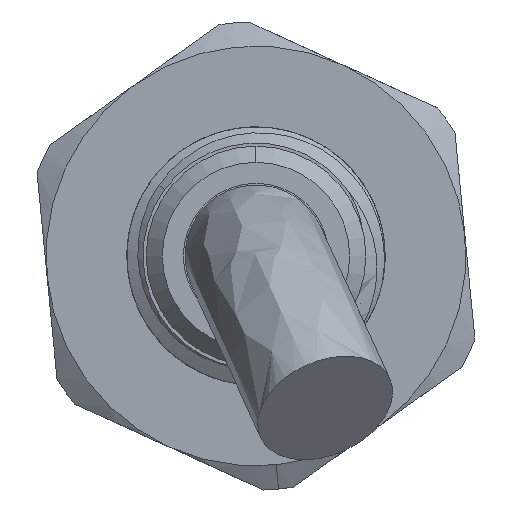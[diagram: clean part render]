
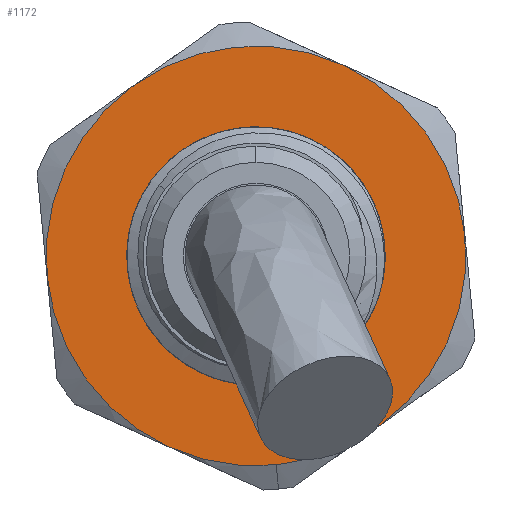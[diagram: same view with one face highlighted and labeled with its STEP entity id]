
A CAD part, front view. The second image highlights one B-rep face of the part: STEP entity #1172.
In plain terms, the highlighted planar face has unit normal (0, -1, 0).
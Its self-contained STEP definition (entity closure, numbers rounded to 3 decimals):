
#227 = CARTESIAN_POINT ( 'NONE',  ( 7.523, 14.443, 0.675 ) ) ;
#368 = CIRCLE ( 'NONE', #440, 6.5 ) ;
#440 = AXIS2_PLACEMENT_3D ( 'NONE', #5103, #8239, #9317 ) ;
#448 = CARTESIAN_POINT ( 'NONE',  ( 3.746, 14.443, 5.965 ) ) ;
#524 = VERTEX_POINT ( 'NONE', #13403 ) ;
#525 = CIRCLE ( 'NONE', #2673, 6.5 ) ;
#1025 = CARTESIAN_POINT ( 'NONE',  ( 3.746, 14.443, 5.965 ) ) ;
#1127 = AXIS2_PLACEMENT_3D ( 'NONE', #1025, #2000, #8404 ) ;
#1172 = ADVANCED_FACE ( 'NONE', ( #11360, #6695 ), #6166, .F. ) ;
#1370 = CARTESIAN_POINT ( 'NONE',  ( 6.44, 14.443, 11.881 ) ) ;
#1513 = AXIS2_PLACEMENT_3D ( 'NONE', #9698, #10881, #3370 ) ;
#1533 = ORIENTED_EDGE ( 'NONE', *, *, #4913, .T. ) ;
#2000 = DIRECTION ( 'NONE',  ( 0., 1., 0. ) ) ;
#2132 = DIRECTION ( 'NONE',  ( -0.096, 0., 0.995 ) ) ;
#2228 = CARTESIAN_POINT ( 'NONE',  ( 3.746, 14.443, 5.965 ) ) ;
#2498 = EDGE_LOOP ( 'NONE', ( #8562, #1533 ) ) ;
#2642 = ORIENTED_EDGE ( 'NONE', *, *, #9723, .F. ) ;
#2673 = AXIS2_PLACEMENT_3D ( 'NONE', #2228, #3084, #2132 ) ;
#3084 = DIRECTION ( 'NONE',  ( 0., 1., 0. ) ) ;
#3216 = ORIENTED_EDGE ( 'NONE', *, *, #6099, .F. ) ;
#3261 = AXIS2_PLACEMENT_3D ( 'NONE', #7527, #7445, #9526 ) ;
#3360 = CARTESIAN_POINT ( 'NONE',  ( -2.724, 14.443, 5.34 ) ) ;
#3370 = DIRECTION ( 'NONE',  ( -0.096, 0., 0.995 ) ) ;
#3635 = DIRECTION ( 'NONE',  ( 0., -1., 0. ) ) ;
#3788 = VERTEX_POINT ( 'NONE', #7961 ) ;
#4014 = CIRCLE ( 'NONE', #13493, 6.5 ) ;
#4190 = VERTEX_POINT ( 'NONE', #8972 ) ;
#4436 = AXIS2_PLACEMENT_3D ( 'NONE', #7229, #5156, #8195 ) ;
#4597 = ORIENTED_EDGE ( 'NONE', *, *, #9516, .F. ) ;
#4656 = DIRECTION ( 'NONE',  ( 0., 1., 0. ) ) ;
#4913 = EDGE_CURVE ( 'NONE', #7078, #4190, #10519, .T. ) ;
#5062 = CARTESIAN_POINT ( 'NONE',  ( 4.083, 14.443, 2.482 ) ) ;
#5103 = CARTESIAN_POINT ( 'NONE',  ( 3.746, 14.443, 5.965 ) ) ;
#5156 = DIRECTION ( 'NONE',  ( 0., 1., 0. ) ) ;
#5167 = AXIS2_PLACEMENT_3D ( 'NONE', #448, #3635, #9839 ) ;
#5706 = CIRCLE ( 'NONE', #3261, 6.5 ) ;
#5737 = AXIS2_PLACEMENT_3D ( 'NONE', #8849, #4656, #13133 ) ;
#5795 = ORIENTED_EDGE ( 'NONE', *, *, #5868, .F. ) ;
#5868 = EDGE_CURVE ( 'NONE', #9996, #10257, #4014, .T. ) ;
#5884 = EDGE_CURVE ( 'NONE', #10086, #6773, #368, .T. ) ;
#5930 = CIRCLE ( 'NONE', #1513, 3.5 ) ;
#6099 = EDGE_CURVE ( 'NONE', #3788, #11757, #525, .T. ) ;
#6160 = DIRECTION ( 'NONE',  ( 0., 1., 0. ) ) ;
#6166 = PLANE ( 'NONE',  #4436 ) ;
#6695 = FACE_OUTER_BOUND ( 'NONE', #8550, .T. ) ;
#6773 = VERTEX_POINT ( 'NONE', #3360 ) ;
#6858 = ORIENTED_EDGE ( 'NONE', *, *, #13011, .T. ) ;
#7078 = VERTEX_POINT ( 'NONE', #5062 ) ;
#7223 = DIRECTION ( 'NONE',  ( -0.096, 0., 0.995 ) ) ;
#7229 = CARTESIAN_POINT ( 'NONE',  ( 3.746, 14.443, 5.965 ) ) ;
#7445 = DIRECTION ( 'NONE',  ( 0., 1., 0. ) ) ;
#7527 = CARTESIAN_POINT ( 'NONE',  ( 3.746, 14.443, 5.965 ) ) ;
#7730 = CIRCLE ( 'NONE', #5167, 6.5 ) ;
#7806 = CARTESIAN_POINT ( 'NONE',  ( 1.053, 14.443, 0.05 ) ) ;
#7837 = ORIENTED_EDGE ( 'NONE', *, *, #5884, .F. ) ;
#7887 = CIRCLE ( 'NONE', #5737, 6.5 ) ;
#7961 = CARTESIAN_POINT ( 'NONE',  ( -0.03, 14.443, 11.256 ) ) ;
#8036 = DIRECTION ( 'NONE',  ( -0.096, 0., 0.995 ) ) ;
#8093 = EDGE_CURVE ( 'NONE', #4190, #7078, #5930, .T. ) ;
#8195 = DIRECTION ( 'NONE',  ( -0.096, 0., 0.995 ) ) ;
#8239 = DIRECTION ( 'NONE',  ( 0., 1., 0. ) ) ;
#8404 = DIRECTION ( 'NONE',  ( -0.096, 0., 0.995 ) ) ;
#8550 = EDGE_LOOP ( 'NONE', ( #8553, #3216, #2642, #7837, #4597, #5795, #6858 ) ) ;
#8553 = ORIENTED_EDGE ( 'NONE', *, *, #8876, .F. ) ;
#8562 = ORIENTED_EDGE ( 'NONE', *, *, #8093, .T. ) ;
#8849 = CARTESIAN_POINT ( 'NONE',  ( 3.746, 14.443, 5.965 ) ) ;
#8876 = EDGE_CURVE ( 'NONE', #11757, #524, #7887, .T. ) ;
#8930 = DIRECTION ( 'NONE',  ( 0., 1., 0. ) ) ;
#8972 = CARTESIAN_POINT ( 'NONE',  ( 3.41, 14.443, 9.449 ) ) ;
#9317 = DIRECTION ( 'NONE',  ( -0.096, 0., 0.995 ) ) ;
#9483 = CARTESIAN_POINT ( 'NONE',  ( 3.746, 14.443, 5.965 ) ) ;
#9516 = EDGE_CURVE ( 'NONE', #10257, #10086, #5706, .T. ) ;
#9526 = DIRECTION ( 'NONE',  ( -0.096, 0., 0.995 ) ) ;
#9698 = CARTESIAN_POINT ( 'NONE',  ( 3.746, 14.443, 5.965 ) ) ;
#9723 = EDGE_CURVE ( 'NONE', #6773, #3788, #12991, .T. ) ;
#9839 = DIRECTION ( 'NONE',  ( 0.096, 0., -0.995 ) ) ;
#9996 = VERTEX_POINT ( 'NONE', #227 ) ;
#10086 = VERTEX_POINT ( 'NONE', #7806 ) ;
#10222 = CARTESIAN_POINT ( 'NONE',  ( 4.372, 14.443, -0.505 ) ) ;
#10257 = VERTEX_POINT ( 'NONE', #10222 ) ;
#10519 = CIRCLE ( 'NONE', #1127, 3.5 ) ;
#10881 = DIRECTION ( 'NONE',  ( 0., 1., 0. ) ) ;
#11036 = CARTESIAN_POINT ( 'NONE',  ( 3.746, 14.443, 5.965 ) ) ;
#11360 = FACE_BOUND ( 'NONE', #2498, .T. ) ;
#11712 = AXIS2_PLACEMENT_3D ( 'NONE', #11036, #8930, #8036 ) ;
#11757 = VERTEX_POINT ( 'NONE', #1370 ) ;
#12991 = CIRCLE ( 'NONE', #11712, 6.5 ) ;
#13011 = EDGE_CURVE ( 'NONE', #9996, #524, #7730, .T. ) ;
#13133 = DIRECTION ( 'NONE',  ( -0.096, 0., 0.995 ) ) ;
#13403 = CARTESIAN_POINT ( 'NONE',  ( 10.216, 14.443, 6.591 ) ) ;
#13493 = AXIS2_PLACEMENT_3D ( 'NONE', #9483, #6160, #7223 ) ;
